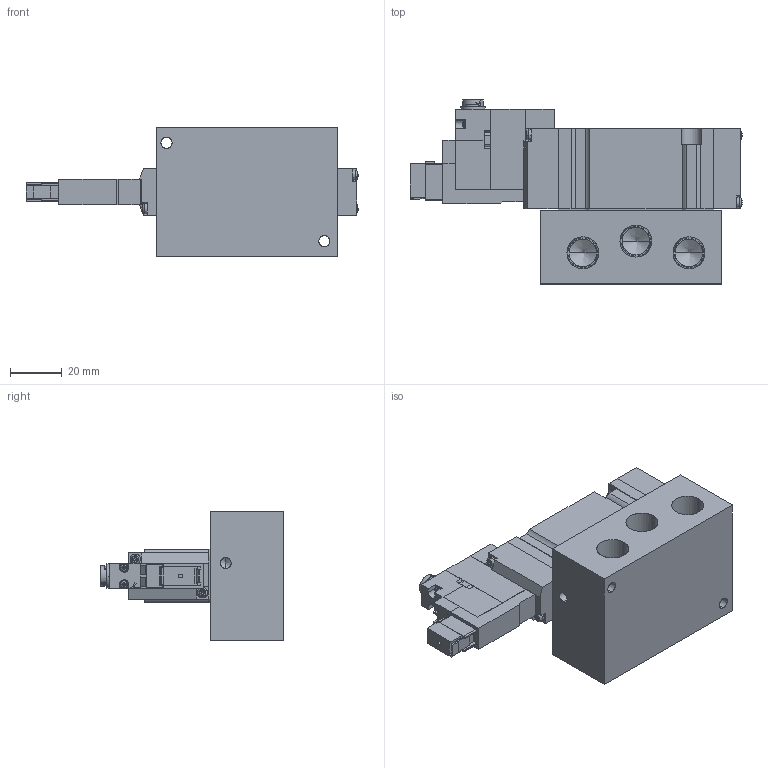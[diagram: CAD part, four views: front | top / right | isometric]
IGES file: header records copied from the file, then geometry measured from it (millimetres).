
Start section: SolidWorks IGES file using analytic representation for surfaces
Global section: file name: D:\Custom\3D繪製\ADEX\A20G\A20GS25#-#-#-E.IGS,1; native system: 5HSolidWorks 2014; preprocessor: SolidWorks 2014; author: Chieh_Lu; date: 150726.231557; units: millimetre
Bounding box: 128.3 x 71.1 x 50 mm (x, y, z)
Surface area: 41649.2 mm2 (no closed solid volume)
Topology: 0 solids, 0 shells, 730 faces, 6264 edges, 6236 vertices
Faces by surface type: bspline 498, revolution 232
